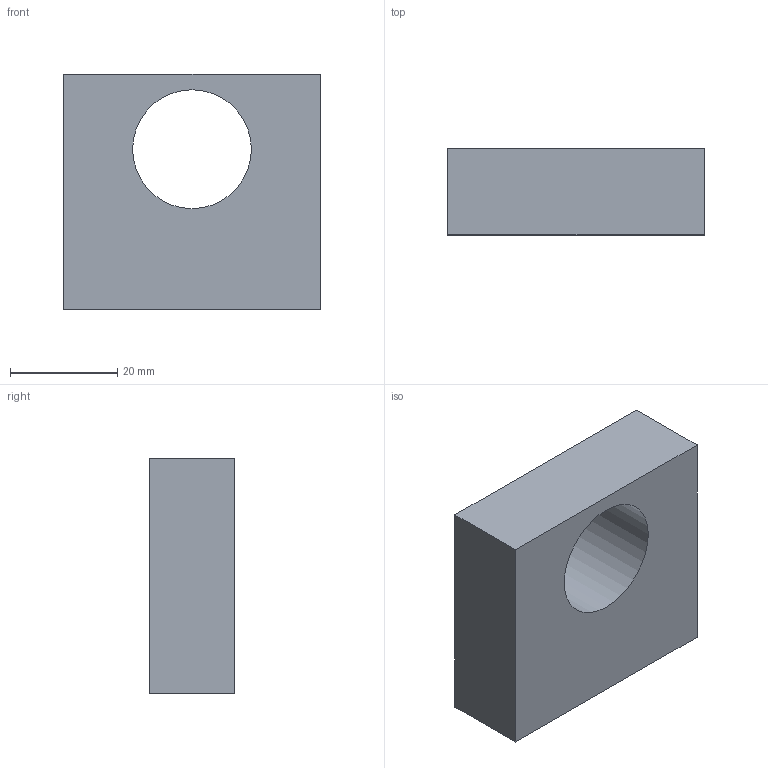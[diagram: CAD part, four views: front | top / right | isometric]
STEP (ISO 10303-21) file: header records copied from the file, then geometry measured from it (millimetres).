
FILE_DESCRIPTION(('Open CASCADE Model'),'2;1');
FILE_NAME('Open CASCADE Shape Model','2026-10-06T19:56:10',('Author'),( 'Open CASCADE'),'Open CASCADE STEP processor 7.9','Open CASCADE 7.9' ,'Unknown');
FILE_SCHEMA(('AUTOMOTIVE_DESIGN { 1 0 10303 214 1 1 1 1 }'));
Length unit declared in the file: millimetre
Products named in the file (1): Open CASCADE STEP translator 7.9 26
Bounding box: 48 x 16 x 44 mm (x, y, z)
Volume: 27439.7 mm3; surface area: 7651.1 mm2
Topology: 1 solids, 1 shells, 11 faces, 21 edges, 14 vertices
Faces by surface type: plane 8, cylinder 3
Full cylindrical faces by diameter (mm): 4.5 x2, 22.2 x1
Entity records: 574 total; most frequent: CARTESIAN_POINT 101, DIRECTION 91, LINE 51, VECTOR 51, ORIENTED_EDGE 42, PCURVE 42, DEFINITIONAL_REPRESENTATION 42, EDGE_CURVE 21
